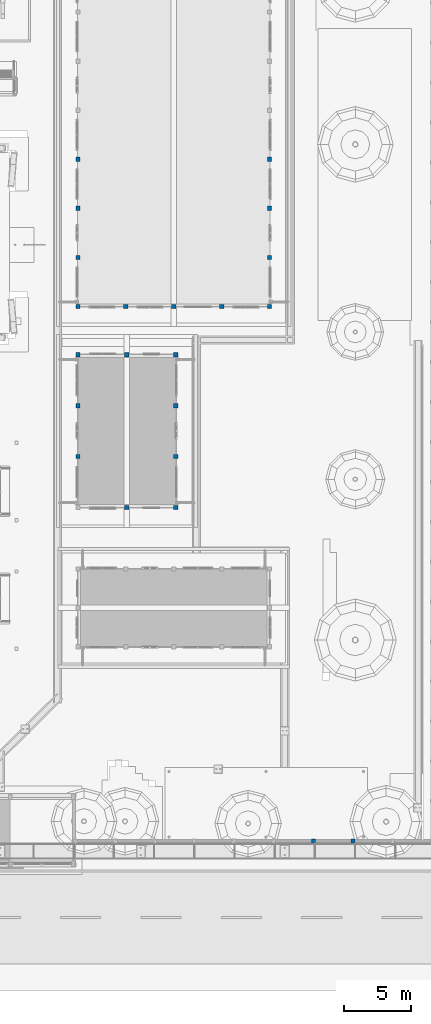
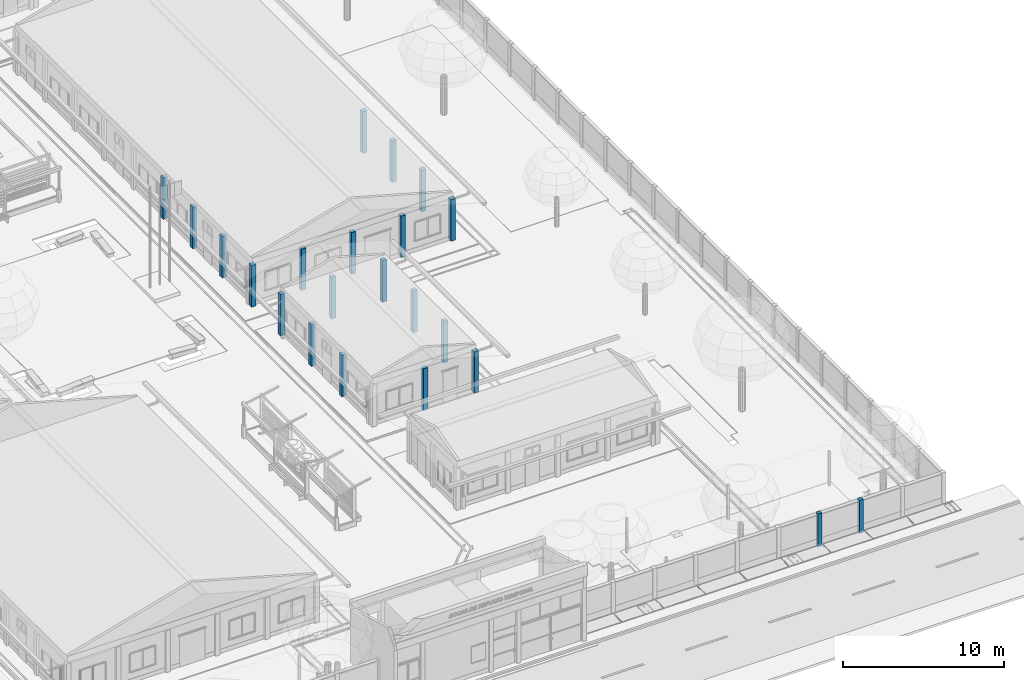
# One storey, part 4 of 177: 27 columns.
"""IFC4 building model written with IfcOpenShell, lengths in metres."""

from ifc_helpers import new_model, si_unit, origin, origin_with_axes, place, context, subcontext, project, spatial, triangles, element, save


model = new_model("IFC4")

# Units and contexts
model_context = context("Model", 3, precision=1e-05, world=origin_with_axes())
body_context = subcontext(model_context, "Body", "Model", "MODEL_VIEW")
ifc_project = project(units=[si_unit("LENGTHUNIT", "METRE"), si_unit("AREAUNIT", "SQUARE_METRE"), si_unit("VOLUMEUNIT", "CUBIC_METRE"), si_unit("PLANEANGLEUNIT", "RADIAN")], contexts=[model_context])

# Site, building, storey
site_placement = place(None, origin_with_axes())
site = spatial("IfcSite", under=ifc_project, at=site_placement, Name="Predio Los Mangos - Morales, San Martín", CompositionType="ELEMENT")
building_placement = place(site_placement, origin())
building = spatial("IfcBuilding", under=site, at=building_placement, Name="Hogar de Refugio Temporal", CompositionType="ELEMENT")
storey_placement = place(building_placement, origin())
storey = spatial("IfcBuildingStorey", under=building, at=storey_placement, Name="NIVEL 1 (NPT +0.00)", CompositionType="ELEMENT", Elevation=0.0)

# Columns
column_1_placement = place(storey_placement, origin())
element("IfcColumn", 1, at=column_1_placement, inside=storey, Name="E-02_col", ObjectType="Columna", PredefinedType="COLUMN", context=body_context, shape_type="Tessellation", body=[
    triangles([(48.79, 42.74, 0.15), (49.11, 42.74, 0.15), (49.11, 43.06, 0.15), (48.79, 43.06, 0.15), (48.79, 42.74, 3.3), (49.11, 42.74, 3.3), (49.11, 43.06, 3.3), (48.79, 43.06, 3.3)], [[1, 4, 3], [1, 3, 2], [5, 6, 7], [5, 7, 8], [1, 2, 6], [1, 6, 5], [2, 3, 7], [2, 7, 6], [3, 4, 8], [3, 8, 7], [4, 1, 5], [4, 5, 8]]),
])
column_2_placement = place(storey_placement, origin())
element("IfcColumn", 2, at=column_2_placement, inside=storey, Name="E-02_col", ObjectType="Columna", PredefinedType="COLUMN", context=body_context, shape_type="Tessellation", body=[
    triangles([(52.44, 42.74, 0.15), (52.76, 42.74, 0.15), (52.76, 43.06, 0.15), (52.44, 43.06, 0.15), (52.44, 42.74, 3.3), (52.76, 42.74, 3.3), (52.76, 43.06, 3.3), (52.44, 43.06, 3.3)], [[1, 4, 3], [1, 3, 2], [5, 6, 7], [5, 7, 8], [1, 2, 6], [1, 6, 5], [2, 3, 7], [2, 7, 6], [3, 4, 8], [3, 8, 7], [4, 1, 5], [4, 5, 8]]),
])
column_3_placement = place(storey_placement, origin())
element("IfcColumn", 3, at=column_3_placement, inside=storey, Name="E-02_col", ObjectType="Columna", PredefinedType="COLUMN", context=body_context, shape_type="Tessellation", body=[
    triangles([(45.14, 54.14, 0.15), (45.46, 54.14, 0.15), (45.46, 54.46, 0.15), (45.14, 54.46, 0.15), (45.14, 54.14, 3.3), (45.46, 54.14, 3.3), (45.46, 54.46, 3.3), (45.14, 54.46, 3.3)], [[1, 4, 3], [1, 3, 2], [5, 6, 7], [5, 7, 8], [1, 2, 6], [1, 6, 5], [2, 3, 7], [2, 7, 6], [3, 4, 8], [3, 8, 7], [4, 1, 5], [4, 5, 8]]),
])
column_4_placement = place(storey_placement, origin())
element("IfcColumn", 4, at=column_4_placement, inside=storey, Name="E-02_col", ObjectType="Columna", PredefinedType="COLUMN", context=body_context, shape_type="Tessellation", body=[
    triangles([(48.79, 54.14, 0.15), (49.11, 54.14, 0.15), (49.11, 54.46, 0.15), (48.79, 54.46, 0.15), (48.79, 54.14, 3.3), (49.11, 54.14, 3.3), (49.11, 54.46, 3.3), (48.79, 54.46, 3.3)], [[1, 4, 3], [1, 3, 2], [5, 6, 7], [5, 7, 8], [1, 2, 6], [1, 6, 5], [2, 3, 7], [2, 7, 6], [3, 4, 8], [3, 8, 7], [4, 1, 5], [4, 5, 8]]),
])
column_5_placement = place(storey_placement, origin())
element("IfcColumn", 5, at=column_5_placement, inside=storey, Name="E-02_col", ObjectType="Columna", PredefinedType="COLUMN", context=body_context, shape_type="Tessellation", body=[
    triangles([(52.44, 54.14, 0.15), (52.76, 54.14, 0.15), (52.76, 54.46, 0.15), (52.44, 54.46, 0.15), (52.44, 54.14, 3.3), (52.76, 54.14, 3.3), (52.76, 54.46, 3.3), (52.44, 54.46, 3.3)], [[1, 4, 3], [1, 3, 2], [5, 6, 7], [5, 7, 8], [1, 2, 6], [1, 6, 5], [2, 3, 7], [2, 7, 6], [3, 4, 8], [3, 8, 7], [4, 1, 5], [4, 5, 8]]),
])
column_6_placement = place(storey_placement, origin())
element("IfcColumn", 6, at=column_6_placement, inside=storey, Name="E-02_col", ObjectType="Columna", PredefinedType="COLUMN", context=body_context, shape_type="Tessellation", body=[
    triangles([(45.14, 46.54, 0.15), (45.46, 46.54, 0.15), (45.46, 46.86, 0.15), (45.14, 46.86, 0.15), (45.14, 46.54, 3.3), (45.46, 46.54, 3.3), (45.46, 46.86, 3.3), (45.14, 46.86, 3.3)], [[1, 4, 3], [1, 3, 2], [5, 6, 7], [5, 7, 8], [1, 2, 6], [1, 6, 5], [2, 3, 7], [2, 7, 6], [3, 4, 8], [3, 8, 7], [4, 1, 5], [4, 5, 8]]),
])
column_7_placement = place(storey_placement, origin())
element("IfcColumn", 7, at=column_7_placement, inside=storey, Name="E-02_col", ObjectType="Columna", PredefinedType="COLUMN", context=body_context, shape_type="Tessellation", body=[
    triangles([(45.14, 50.34, 0.15), (45.46, 50.34, 0.15), (45.46, 50.66, 0.15), (45.14, 50.66, 0.15), (45.14, 50.34, 3.3), (45.46, 50.34, 3.3), (45.46, 50.66, 3.3), (45.14, 50.66, 3.3)], [[1, 4, 3], [1, 3, 2], [5, 6, 7], [5, 7, 8], [1, 2, 6], [1, 6, 5], [2, 3, 7], [2, 7, 6], [3, 4, 8], [3, 8, 7], [4, 1, 5], [4, 5, 8]]),
])
column_8_placement = place(storey_placement, origin())
element("IfcColumn", 8, at=column_8_placement, inside=storey, Name="E-02_col", ObjectType="Columna", PredefinedType="COLUMN", context=body_context, shape_type="Tessellation", body=[
    triangles([(45.14, 54.14, 0.15), (45.46, 54.14, 0.15), (45.46, 54.46, 0.15), (45.14, 54.46, 0.15), (45.14, 54.14, 3.3), (45.46, 54.14, 3.3), (45.46, 54.46, 3.3), (45.14, 54.46, 3.3)], [[1, 4, 3], [1, 3, 2], [5, 6, 7], [5, 7, 8], [1, 2, 6], [1, 6, 5], [2, 3, 7], [2, 7, 6], [3, 4, 8], [3, 8, 7], [4, 1, 5], [4, 5, 8]]),
])
column_9_placement = place(storey_placement, origin())
element("IfcColumn", 9, at=column_9_placement, inside=storey, Name="E-02_col", ObjectType="Columna", PredefinedType="COLUMN", context=body_context, shape_type="Tessellation", body=[
    triangles([(52.44, 42.74, 0.15), (52.76, 42.74, 0.15), (52.76, 43.06, 0.15), (52.44, 43.06, 0.15), (52.44, 42.74, 3.3), (52.76, 42.74, 3.3), (52.76, 43.06, 3.3), (52.44, 43.06, 3.3)], [[1, 4, 3], [1, 3, 2], [5, 6, 7], [5, 7, 8], [1, 2, 6], [1, 6, 5], [2, 3, 7], [2, 7, 6], [3, 4, 8], [3, 8, 7], [4, 1, 5], [4, 5, 8]]),
])
column_10_placement = place(storey_placement, origin())
element("IfcColumn", 10, at=column_10_placement, inside=storey, Name="E-02_col", ObjectType="Columna", PredefinedType="COLUMN", context=body_context, shape_type="Tessellation", body=[
    triangles([(52.44, 46.54, 0.15), (52.76, 46.54, 0.15), (52.76, 46.86, 0.15), (52.44, 46.86, 0.15), (52.44, 46.54, 3.3), (52.76, 46.54, 3.3), (52.76, 46.86, 3.3), (52.44, 46.86, 3.3)], [[1, 4, 3], [1, 3, 2], [5, 6, 7], [5, 7, 8], [1, 2, 6], [1, 6, 5], [2, 3, 7], [2, 7, 6], [3, 4, 8], [3, 8, 7], [4, 1, 5], [4, 5, 8]]),
])
column_11_placement = place(storey_placement, origin())
element("IfcColumn", 11, at=column_11_placement, inside=storey, Name="E-02_col", ObjectType="Columna", PredefinedType="COLUMN", context=body_context, shape_type="Tessellation", body=[
    triangles([(52.44, 50.34, 0.15), (52.76, 50.34, 0.15), (52.76, 50.66, 0.15), (52.44, 50.66, 0.15), (52.44, 50.34, 3.3), (52.76, 50.34, 3.3), (52.76, 50.66, 3.3), (52.44, 50.66, 3.3)], [[1, 4, 3], [1, 3, 2], [5, 6, 7], [5, 7, 8], [1, 2, 6], [1, 6, 5], [2, 3, 7], [2, 7, 6], [3, 4, 8], [3, 8, 7], [4, 1, 5], [4, 5, 8]]),
])
column_12_placement = place(storey_placement, origin())
element("IfcColumn", 12, at=column_12_placement, inside=storey, Name="E-02_col", ObjectType="Columna", PredefinedType="COLUMN", context=body_context, shape_type="Tessellation", body=[
    triangles([(52.44, 54.14, 0.15), (52.76, 54.14, 0.15), (52.76, 54.46, 0.15), (52.44, 54.46, 0.15), (52.44, 54.14, 3.3), (52.76, 54.14, 3.3), (52.76, 54.46, 3.3), (52.44, 54.46, 3.3)], [[1, 4, 3], [1, 3, 2], [5, 6, 7], [5, 7, 8], [1, 2, 6], [1, 6, 5], [2, 3, 7], [2, 7, 6], [3, 4, 8], [3, 8, 7], [4, 1, 5], [4, 5, 8]]),
])
column_13_placement = place(storey_placement, origin())
element("IfcColumn", 13, at=column_13_placement, inside=storey, Name="E-05_col", ObjectType="Columna", PredefinedType="COLUMN", context=body_context, shape_type="Tessellation", body=[
    triangles([(45.14, 57.74, 0.15), (45.46, 57.74, 0.15), (45.46, 58.06, 0.15), (45.14, 58.06, 0.15), (45.14, 57.74, 3.3), (45.46, 57.74, 3.3), (45.46, 58.06, 3.3), (45.14, 58.06, 3.3)], [[1, 4, 3], [1, 3, 2], [5, 6, 7], [5, 7, 8], [1, 2, 6], [1, 6, 5], [2, 3, 7], [2, 7, 6], [3, 4, 8], [3, 8, 7], [4, 1, 5], [4, 5, 8]]),
])
column_14_placement = place(storey_placement, origin())
element("IfcColumn", 14, at=column_14_placement, inside=storey, Name="E-05_col", ObjectType="Columna", PredefinedType="COLUMN", context=body_context, shape_type="Tessellation", body=[
    triangles([(48.715, 57.74, 0.15), (49.035, 57.74, 0.15), (49.035, 58.06, 0.15), (48.715, 58.06, 0.15), (48.715, 57.74, 3.3), (49.035, 57.74, 3.3), (49.035, 58.06, 3.3), (48.715, 58.06, 3.3)], [[1, 4, 3], [1, 3, 2], [5, 6, 7], [5, 7, 8], [1, 2, 6], [1, 6, 5], [2, 3, 7], [2, 7, 6], [3, 4, 8], [3, 8, 7], [4, 1, 5], [4, 5, 8]]),
])
column_15_placement = place(storey_placement, origin())
element("IfcColumn", 15, at=column_15_placement, inside=storey, Name="E-05_col", ObjectType="Columna", PredefinedType="COLUMN", context=body_context, shape_type="Tessellation", body=[
    triangles([(52.29, 57.74, 0.15), (52.61, 57.74, 0.15), (52.61, 58.06, 0.15), (52.29, 58.06, 0.15), (52.29, 57.74, 3.3), (52.61, 57.74, 3.3), (52.61, 58.06, 3.3), (52.29, 58.06, 3.3)], [[1, 4, 3], [1, 3, 2], [5, 6, 7], [5, 7, 8], [1, 2, 6], [1, 6, 5], [2, 3, 7], [2, 7, 6], [3, 4, 8], [3, 8, 7], [4, 1, 5], [4, 5, 8]]),
])
column_16_placement = place(storey_placement, origin())
element("IfcColumn", 16, at=column_16_placement, inside=storey, Name="E-05_col", ObjectType="Columna", PredefinedType="COLUMN", context=body_context, shape_type="Tessellation", body=[
    triangles([(55.865, 57.74, 0.15), (56.185, 57.74, 0.15), (56.185, 58.06, 0.15), (55.865, 58.06, 0.15), (55.865, 57.74, 3.3), (56.185, 57.74, 3.3), (56.185, 58.06, 3.3), (55.865, 58.06, 3.3)], [[1, 4, 3], [1, 3, 2], [5, 6, 7], [5, 7, 8], [1, 2, 6], [1, 6, 5], [2, 3, 7], [2, 7, 6], [3, 4, 8], [3, 8, 7], [4, 1, 5], [4, 5, 8]]),
])
column_17_placement = place(storey_placement, origin())
element("IfcColumn", 17, at=column_17_placement, inside=storey, Name="E-05_col", ObjectType="Columna", PredefinedType="COLUMN", context=body_context, shape_type="Tessellation", body=[
    triangles([(59.44, 57.74, 0.15), (59.76, 57.74, 0.15), (59.76, 58.06, 0.15), (59.44, 58.06, 0.15), (59.44, 57.74, 3.3), (59.76, 57.74, 3.3), (59.76, 58.06, 3.3), (59.44, 58.06, 3.3)], [[1, 4, 3], [1, 3, 2], [5, 6, 7], [5, 7, 8], [1, 2, 6], [1, 6, 5], [2, 3, 7], [2, 7, 6], [3, 4, 8], [3, 8, 7], [4, 1, 5], [4, 5, 8]]),
])
column_18_placement = place(storey_placement, origin())
element("IfcColumn", 18, at=column_18_placement, inside=storey, Name="E-05_col", ObjectType="Columna", PredefinedType="COLUMN", context=body_context, shape_type="Tessellation", body=[
    triangles([(45.14, 57.74, 0.15), (45.46, 57.74, 0.15), (45.46, 58.06, 0.15), (45.14, 58.06, 0.15), (45.14, 57.74, 3.3), (45.46, 57.74, 3.3), (45.46, 58.06, 3.3), (45.14, 58.06, 3.3)], [[1, 4, 3], [1, 3, 2], [5, 6, 7], [5, 7, 8], [1, 2, 6], [1, 6, 5], [2, 3, 7], [2, 7, 6], [3, 4, 8], [3, 8, 7], [4, 1, 5], [4, 5, 8]]),
])
column_19_placement = place(storey_placement, origin())
element("IfcColumn", 19, at=column_19_placement, inside=storey, Name="E-05_col", ObjectType="Columna", PredefinedType="COLUMN", context=body_context, shape_type="Tessellation", body=[
    triangles([(45.14, 61.4025, 0.15), (45.46, 61.4025, 0.15), (45.46, 61.7225, 0.15), (45.14, 61.7225, 0.15), (45.14, 61.4025, 3.3), (45.46, 61.4025, 3.3), (45.46, 61.7225, 3.3), (45.14, 61.7225, 3.3)], [[1, 4, 3], [1, 3, 2], [5, 6, 7], [5, 7, 8], [1, 2, 6], [1, 6, 5], [2, 3, 7], [2, 7, 6], [3, 4, 8], [3, 8, 7], [4, 1, 5], [4, 5, 8]]),
])
column_20_placement = place(storey_placement, origin())
element("IfcColumn", 20, at=column_20_placement, inside=storey, Name="E-05_col", ObjectType="Columna", PredefinedType="COLUMN", context=body_context, shape_type="Tessellation", body=[
    triangles([(45.14, 65.065, 0.15), (45.46, 65.065, 0.15), (45.46, 65.385, 0.15), (45.14, 65.385, 0.15), (45.14, 65.065, 3.3), (45.46, 65.065, 3.3), (45.46, 65.385, 3.3), (45.14, 65.385, 3.3)], [[1, 4, 3], [1, 3, 2], [5, 6, 7], [5, 7, 8], [1, 2, 6], [1, 6, 5], [2, 3, 7], [2, 7, 6], [3, 4, 8], [3, 8, 7], [4, 1, 5], [4, 5, 8]]),
])
column_21_placement = place(storey_placement, origin())
element("IfcColumn", 21, at=column_21_placement, inside=storey, Name="E-05_col", ObjectType="Columna", PredefinedType="COLUMN", context=body_context, shape_type="Tessellation", body=[
    triangles([(45.14, 68.7275, 0.15), (45.46, 68.7275, 0.15), (45.46, 69.0475, 0.15), (45.14, 69.0475, 0.15), (45.14, 68.7275, 3.3), (45.46, 68.7275, 3.3), (45.46, 69.0475, 3.3), (45.14, 69.0475, 3.3)], [[1, 4, 3], [1, 3, 2], [5, 6, 7], [5, 7, 8], [1, 2, 6], [1, 6, 5], [2, 3, 7], [2, 7, 6], [3, 4, 8], [3, 8, 7], [4, 1, 5], [4, 5, 8]]),
])
column_22_placement = place(storey_placement, origin())
element("IfcColumn", 22, at=column_22_placement, inside=storey, Name="E-05_col", ObjectType="Columna", PredefinedType="COLUMN", context=body_context, shape_type="Tessellation", body=[
    triangles([(59.44, 57.74, 0.15), (59.76, 57.74, 0.15), (59.76, 58.06, 0.15), (59.44, 58.06, 0.15), (59.44, 57.74, 3.3), (59.76, 57.74, 3.3), (59.76, 58.06, 3.3), (59.44, 58.06, 3.3)], [[1, 4, 3], [1, 3, 2], [5, 6, 7], [5, 7, 8], [1, 2, 6], [1, 6, 5], [2, 3, 7], [2, 7, 6], [3, 4, 8], [3, 8, 7], [4, 1, 5], [4, 5, 8]]),
])
column_23_placement = place(storey_placement, origin())
element("IfcColumn", 23, at=column_23_placement, inside=storey, Name="E-05_col", ObjectType="Columna", PredefinedType="COLUMN", context=body_context, shape_type="Tessellation", body=[
    triangles([(59.44, 61.4025, 0.15), (59.76, 61.4025, 0.15), (59.76, 61.7225, 0.15), (59.44, 61.7225, 0.15), (59.44, 61.4025, 3.3), (59.76, 61.4025, 3.3), (59.76, 61.7225, 3.3), (59.44, 61.7225, 3.3)], [[1, 4, 3], [1, 3, 2], [5, 6, 7], [5, 7, 8], [1, 2, 6], [1, 6, 5], [2, 3, 7], [2, 7, 6], [3, 4, 8], [3, 8, 7], [4, 1, 5], [4, 5, 8]]),
])
column_24_placement = place(storey_placement, origin())
element("IfcColumn", 24, at=column_24_placement, inside=storey, Name="E-05_col", ObjectType="Columna", PredefinedType="COLUMN", context=body_context, shape_type="Tessellation", body=[
    triangles([(59.44, 65.065, 0.15), (59.76, 65.065, 0.15), (59.76, 65.385, 0.15), (59.44, 65.385, 0.15), (59.44, 65.065, 3.3), (59.76, 65.065, 3.3), (59.76, 65.385, 3.3), (59.44, 65.385, 3.3)], [[1, 4, 3], [1, 3, 2], [5, 6, 7], [5, 7, 8], [1, 2, 6], [1, 6, 5], [2, 3, 7], [2, 7, 6], [3, 4, 8], [3, 8, 7], [4, 1, 5], [4, 5, 8]]),
])
column_25_placement = place(storey_placement, origin())
element("IfcColumn", 25, at=column_25_placement, inside=storey, Name="E-05_col", ObjectType="Columna", PredefinedType="COLUMN", context=body_context, shape_type="Tessellation", body=[
    triangles([(59.44, 68.7275, 0.15), (59.76, 68.7275, 0.15), (59.76, 69.0475, 0.15), (59.44, 69.0475, 0.15), (59.44, 68.7275, 3.3), (59.76, 68.7275, 3.3), (59.76, 69.0475, 3.3), (59.44, 69.0475, 3.3)], [[1, 4, 3], [1, 3, 2], [5, 6, 7], [5, 7, 8], [1, 2, 6], [1, 6, 5], [2, 3, 7], [2, 7, 6], [3, 4, 8], [3, 8, 7], [4, 1, 5], [4, 5, 8]]),
])
column_26_placement = place(storey_placement, origin())
element("IfcColumn", 26, at=column_26_placement, inside=storey, Name="columna_cerco", ObjectType="Columna", PredefinedType="COLUMN", context=body_context, shape_type="Tessellation", body=[
    triangles([(62.7333, 17.86, 0.0), (63.0133, 17.86, 0.0), (63.0133, 18.14, 0.0), (62.7333, 18.14, 0.0), (62.7333, 17.86, 2.5), (63.0133, 17.86, 2.5), (63.0133, 18.14, 2.5), (62.7333, 18.14, 2.5)], [[1, 4, 3], [1, 3, 2], [5, 6, 7], [5, 7, 8], [1, 2, 6], [1, 6, 5], [2, 3, 7], [2, 7, 6], [3, 4, 8], [3, 8, 7], [4, 1, 5], [4, 5, 8]]),
])
column_27_placement = place(storey_placement, origin())
element("IfcColumn", 27, at=column_27_placement, inside=storey, Name="columna_cerco", ObjectType="Columna", PredefinedType="COLUMN", context=body_context, shape_type="Tessellation", body=[
    triangles([(65.6956, 17.86, 0.0), (65.9756, 17.86, 0.0), (65.9756, 18.14, 0.0), (65.6956, 18.14, 0.0), (65.6956, 17.86, 2.5), (65.9756, 17.86, 2.5), (65.9756, 18.14, 2.5), (65.6956, 18.14, 2.5)], [[1, 4, 3], [1, 3, 2], [5, 6, 7], [5, 7, 8], [1, 2, 6], [1, 6, 5], [2, 3, 7], [2, 7, 6], [3, 4, 8], [3, 8, 7], [4, 1, 5], [4, 5, 8]]),
])

save(model, "model.ifc")
